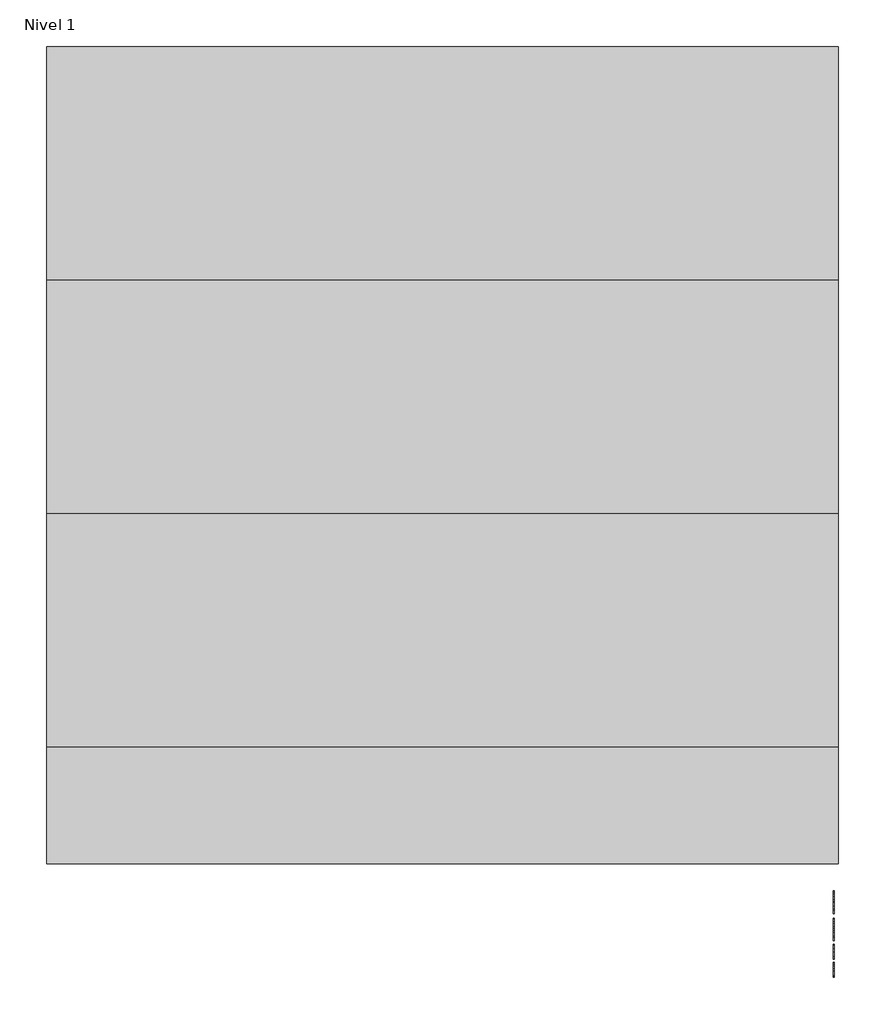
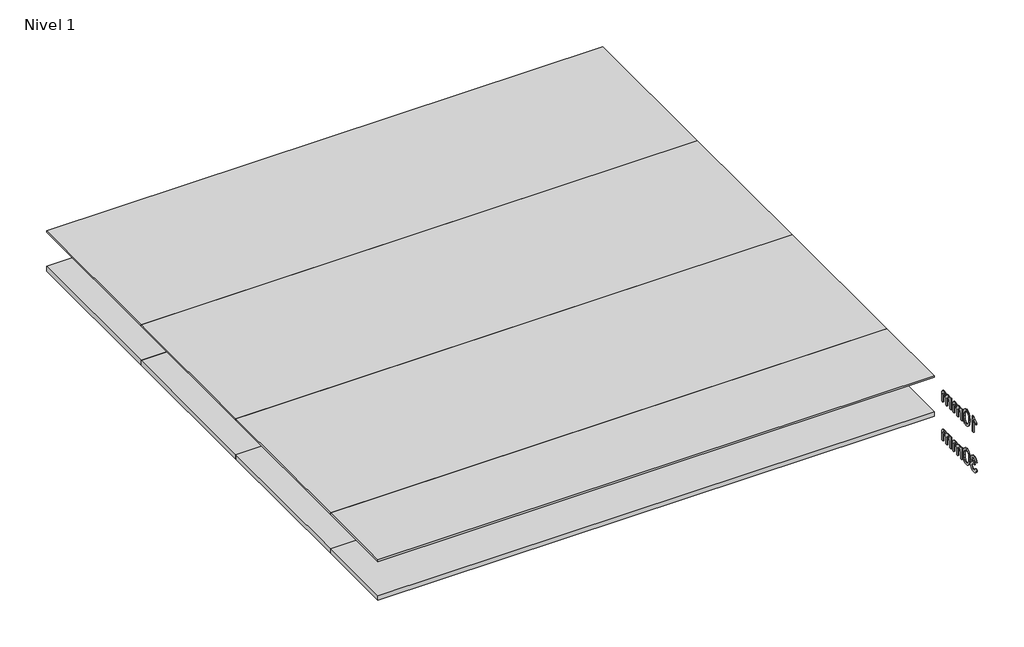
# One storey: 8 plates, 2 proxies.
"""IFC4 building model written with IfcOpenShell, lengths in millimetres."""

from ifc_helpers import new_model, si_unit, frame, origin, place, context, project, spatial, polyline, outline, extrude, transform, mapped, element, save
from components import panel_del_sistema_1ac1ecd3, panel_del_sistema_f5e17b8b, panel_del_sistema_2c4d4257, panel_del_sistema_870ac747

model = new_model("IFC4")

# Units and contexts
model_context = context("Model", 3, world=origin())
ifc_project = project(units=[si_unit("LENGTHUNIT", "METRE", prefix="MILLI")], contexts=[model_context])

# Site, building, storey
site = spatial("IfcSite", under=ifc_project)
building = spatial("IfcBuilding", under=site)
storey = spatial("IfcBuildingStorey", under=building, Name="Nivel 1", Elevation=0.0)

# Proxies
placement = place(None, origin())
element("IfcBuildingElementProxy", 1, Name="100mm Arial", ObjectType="100mm Arial", at=placement, inside=storey, context=model_context, shape_type="SweptSolid", body=[
    extrude(outline(polyline([(14811.6332666, -540.4578656), (14824.1903054, -538.8882358), (14831.1187496, -552.1074622), (14844.0804586, -556.1541641), (14852.6888973, -554.7623439), (14859.3352987, -550.5868832), (14865.0006814, -536.8035712), (14859.3843496, -523.8173367), (14845.1105282, -518.6792515), (14836.3058858, -520.0526776), (14837.7038373, -507.4956389), (14839.7149256, -507.6427917), (14853.9642215, -504.0375481), (14858.7098993, -499.4635487), (14860.2917918, -492.9520373), (14855.7055296, -483.1295881), (14843.8842549, -479.2423016), (14831.9158273, -483.1663763), (14825.7599352, -494.9386001), (14813.2028965, -493.3689703), (14816.9001105, -482.0933871), (14823.4790669, -473.6750208), (14832.479913, -468.4327024), (14843.4427965, -466.6852629), (14858.5872719, -470.1310909), (14869.1822734, -479.54887), (14872.8488306, -492.2162733), (14869.3662144, -503.7922935), (14859.0655185, -512.1064266), (14872.7507287, -520.6903398), (14877.5577201, -537.0243004), (14875.1542244, -549.2625081), (14867.9437373, -559.4896275), (14857.0605616, -566.405809), (14843.6390002, -568.7112029), (14831.4988943, -566.7430342), (14821.6151314, -560.8385282), (14814.7418695, -551.8070252), (14811.6332666, -540.4578656)])), frame((9557.0230098, 0.0, 0.0), z_axis=(1.0, 0.0, 0.0), x_axis=(0.0, 1.0, 0.0)), (0.0, 0.0, 1.0), 5.0),
    extrude(outline(polyline([(14888.5451291, -517.7227583), (14892.2362118, -488.8194963), (14903.1990952, -472.1544419), (14921.5073558, -466.6852629), (14936.1735847, -469.9226244), (14946.3026023, -479.2545644), (14952.1887142, -494.116997), (14954.4695826, -517.7227583), (14950.8152881, -546.5033931), (14939.8891929, -563.2052357), (14931.6578332, -567.3347111), (14921.5073558, -568.7112029), (14908.4598077, -566.3199699), (14898.5515193, -559.146271), (14891.0467266, -542.1562542), (14888.5451291, -517.7227583)]), holes=[polyline([(14901.1021678, -517.6982329), (14902.5736958, -537.4504303), (14906.9882798, -548.8823633), (14913.5611047, -554.3362139), (14921.5073558, -556.1541641), (14929.4536069, -554.3300825), (14936.0264319, -548.8578379), (14940.4410159, -537.4197735), (14941.9125438, -517.6982329), (14940.4900668, -498.3905595), (14936.2226356, -486.8697217), (14929.6620734, -481.1491567), (14921.360203, -479.2423016), (14913.4997911, -480.9222961), (14907.1844835, -485.9622794), (14902.6227467, -498.2004871), (14901.1021678, -517.6982329)])]), frame((9557.0230098, 0.0, 0.0), z_axis=(1.0, 0.0, 0.0), x_axis=(0.0, 1.0, 0.0)), (0.0, 0.0, 1.0), 5.0),
    extrude(outline(polyline([(14968.5962512, -567.141573), (14968.5962512, -493.3689703), (14981.15329, -493.3689703), (14981.15329, -505.5090761), (14989.7862541, -495.5639995), (15002.0735128, -491.7993404), (15014.655077, -495.6375759), (15021.5712585, -506.3919929), (15031.3691823, -495.4475035), (15043.7422801, -491.7993404), (15053.181519, -493.3168536), (15060.1620798, -497.8693933), (15064.4754962, -505.5795868), (15065.9133017, -516.5700614), (15065.9133017, -567.141573), (15053.3562629, -567.141573), (15053.3562629, -521.965664), (15052.1913033, -511.4810272), (15047.972923, -506.3184165), (15040.7992241, -504.3563792), (15028.4506518, -509.3840998), (15024.7626348, -515.9262679), (15023.5332958, -525.4973312), (15023.5332958, -567.141573), (15010.9762571, -567.141573), (15010.9762571, -520.5677124), (15008.0699893, -508.4030811), (14998.5418456, -504.3563792), (14989.2466939, -507.0541805), (14983.0662764, -514.9513806), (14981.15329, -529.9364406), (14981.15329, -567.141573), (14968.5962512, -567.141573)])), frame((9557.0230098, 0.0, 0.0), z_axis=(1.0, 0.0, 0.0), x_axis=(0.0, 1.0, 0.0)), (0.0, 0.0, 1.0), 5.0),
    extrude(outline(polyline([(15084.7488598, -567.141573), (15084.7488598, -493.3689703), (15097.3058986, -493.3689703), (15097.3058986, -505.5090761), (15105.9388628, -495.5639995), (15118.2261214, -491.7993404), (15130.8076856, -495.6375759), (15137.7238671, -506.3919929), (15147.5217909, -495.4475035), (15159.8948887, -491.7993404), (15169.3341276, -493.3168536), (15176.3146884, -497.8693933), (15180.6281048, -505.5795868), (15182.0659103, -516.5700614), (15182.0659103, -567.141573), (15169.5088715, -567.141573), (15169.5088715, -521.965664), (15168.3439119, -511.4810272), (15164.1255317, -506.3184165), (15156.9518327, -504.3563792), (15144.6032604, -509.3840998), (15140.9152434, -515.9262679), (15139.6859044, -525.4973312), (15139.6859044, -567.141573), (15127.1288657, -567.141573), (15127.1288657, -520.5677124), (15124.2225979, -508.4030811), (15114.6944542, -504.3563792), (15105.3993025, -507.0541805), (15099.218885, -514.9513806), (15097.3058986, -529.9364406), (15097.3058986, -567.141573), (15084.7488598, -567.141573)])), frame((9557.0230098, 0.0, 0.0), z_axis=(1.0, 0.0, 0.0), x_axis=(0.0, 1.0, 0.0)), (0.0, 0.0, 1.0), 5.0),
])
element("IfcBuildingElementProxy", 2, Name="100mm Arial", ObjectType="100mm Arial", at=placement, inside=storey, context=model_context, shape_type="SweptSolid", body=[
    extrude(outline(polyline([(14858.722162, -317.141573), (14846.1651232, -317.141573), (14846.1651232, -238.8562845), (14834.270272, -247.3298331), (14821.0510457, -253.6696661), (14821.0510457, -241.7993404), (14839.4574082, -230.051642), (14850.6287581, -216.6852629), (14858.722162, -216.6852629), (14858.722162, -317.141573)])), frame((9557.0230098, 0.0, 0.0), z_axis=(1.0, 0.0, 0.0), x_axis=(0.0, 1.0, 0.0)), (0.0, 0.0, 1.0), 5.0),
    extrude(outline(polyline([(14888.5451291, -267.7227583), (14892.2362118, -238.8194963), (14903.1990952, -222.1544419), (14921.5073558, -216.6852629), (14936.1735847, -219.9226244), (14946.3026023, -229.2545644), (14952.1887142, -244.116997), (14954.4695826, -267.7227583), (14950.8152881, -296.5033931), (14939.8891929, -313.2052357), (14931.6578332, -317.3347111), (14921.5073558, -318.7112029), (14908.4598077, -316.3199699), (14898.5515193, -309.146271), (14891.0467266, -292.1562542), (14888.5451291, -267.7227583)]), holes=[polyline([(14901.1021678, -267.6982329), (14902.5736958, -287.4504303), (14906.9882798, -298.8823633), (14913.5611047, -304.3362139), (14921.5073558, -306.1541641), (14929.4536069, -304.3300825), (14936.0264319, -298.8578379), (14940.4410159, -287.4197735), (14941.9125438, -267.6982329), (14940.4900668, -248.3905595), (14936.2226356, -236.8697217), (14929.6620734, -231.1491567), (14921.360203, -229.2423016), (14913.4997911, -230.9222961), (14907.1844835, -235.9622794), (14902.6227467, -248.2004871), (14901.1021678, -267.6982329)])]), frame((9557.0230098, 0.0, 0.0), z_axis=(1.0, 0.0, 0.0), x_axis=(0.0, 1.0, 0.0)), (0.0, 0.0, 1.0), 5.0),
    extrude(outline(polyline([(14968.5962512, -317.141573), (14968.5962512, -243.3689703), (14981.15329, -243.3689703), (14981.15329, -255.5090761), (14989.7862541, -245.5639995), (15002.0735128, -241.7993404), (15014.655077, -245.6375759), (15021.5712585, -256.3919929), (15031.3691823, -245.4475035), (15043.7422801, -241.7993404), (15053.181519, -243.3168536), (15060.1620798, -247.8693933), (15064.4754962, -255.5795868), (15065.9133017, -266.5700614), (15065.9133017, -317.141573), (15053.3562629, -317.141573), (15053.3562629, -271.965664), (15052.1913033, -261.4810272), (15047.972923, -256.3184165), (15040.7992241, -254.3563792), (15028.4506518, -259.3840998), (15024.7626348, -265.9262679), (15023.5332958, -275.4973312), (15023.5332958, -317.141573), (15010.9762571, -317.141573), (15010.9762571, -270.5677124), (15008.0699893, -258.4030811), (14998.5418456, -254.3563792), (14989.2466939, -257.0541805), (14983.0662764, -264.9513806), (14981.15329, -279.9364406), (14981.15329, -317.141573), (14968.5962512, -317.141573)])), frame((9557.0230098, 0.0, 0.0), z_axis=(1.0, 0.0, 0.0), x_axis=(0.0, 1.0, 0.0)), (0.0, 0.0, 1.0), 5.0),
    extrude(outline(polyline([(15084.7488598, -317.141573), (15084.7488598, -243.3689703), (15097.3058986, -243.3689703), (15097.3058986, -255.5090761), (15105.9388628, -245.5639995), (15118.2261214, -241.7993404), (15130.8076856, -245.6375759), (15137.7238671, -256.3919929), (15147.5217909, -245.4475035), (15159.8948887, -241.7993404), (15169.3341276, -243.3168536), (15176.3146884, -247.8693933), (15180.6281048, -255.5795868), (15182.0659103, -266.5700614), (15182.0659103, -317.141573), (15169.5088715, -317.141573), (15169.5088715, -271.965664), (15168.3439119, -261.4810272), (15164.1255317, -256.3184165), (15156.9518327, -254.3563792), (15144.6032604, -259.3840998), (15140.9152434, -265.9262679), (15139.6859044, -275.4973312), (15139.6859044, -317.141573), (15127.1288657, -317.141573), (15127.1288657, -270.5677124), (15124.2225979, -258.4030811), (15114.6944542, -254.3563792), (15105.3993025, -257.0541805), (15099.218885, -264.9513806), (15097.3058986, -279.9364406), (15097.3058986, -317.141573), (15084.7488598, -317.141573)])), frame((9557.0230098, 0.0, 0.0), z_axis=(1.0, 0.0, 0.0), x_axis=(0.0, 1.0, 0.0)), (0.0, 0.0, 1.0), 5.0),
])

# Plates
panel_del_sistema_shape = panel_del_sistema_1ac1ecd3(model_context)
element("IfcPlate", 3, ObjectType="Panel del sistema : HIANSA PANEL - PANELES DE CUBIERTA SIN TAPAJUNTA - EASY BOARD 5GR - Esp. 30mm", at=placement, inside=storey, context=model_context, shape_type="MappedRepresentation", body=[
    mapped(panel_del_sistema_shape, transform((9579.0356399, 18298.3330794, -529.5962409), x_axis=(0.0, -1.0, 0.0), y_axis=(0.0, 0.0, 1.0), z_axis=(-1.0, 0.0, 0.0))),
])
element("IfcPlate", 4, ObjectType="Panel del sistema : HIANSA PANEL - PANELES DE CUBIERTA SIN TAPAJUNTA - EASY BOARD 5GR - Esp. 30mm", at=placement, inside=storey, context=model_context, shape_type="MappedRepresentation", body=[
    mapped(panel_del_sistema_shape, transform((9579.0356399, 17298.3330793, -529.5962409), x_axis=(0.0, -1.0, 0.0), y_axis=(0.0, 0.0, 1.0), z_axis=(-1.0, 0.0, 0.0))),
])
element("IfcPlate", 5, ObjectType="Panel del sistema : HIANSA PANEL - PANELES DE CUBIERTA SIN TAPAJUNTA - EASY BOARD 5GR - Esp. 30mm", at=placement, inside=storey, context=model_context, shape_type="MappedRepresentation", body=[
    mapped(panel_del_sistema_shape, transform((9579.0356399, 16298.3330793, -529.5962409), x_axis=(0.0, -1.0, 0.0), y_axis=(0.0, 0.0, 1.0), z_axis=(-1.0, 0.0, 0.0))),
])
panel_del_sistema_2_shape = panel_del_sistema_f5e17b8b(model_context)
element("IfcPlate", 6, ObjectType="Panel del sistema : HIANSA PANEL - PANELES DE CUBIERTA SIN TAPAJUNTA - EASY BOARD 5GR - Esp. 30mm", at=placement, inside=storey, context=model_context, shape_type="MappedRepresentation", body=[
    mapped(panel_del_sistema_2_shape, transform((9579.0356399, 15548.3330794, -529.5962409), x_axis=(0.0, -1.0, 0.0), y_axis=(0.0, 0.0, 1.0), z_axis=(-1.0, 0.0, 0.0))),
])
panel_del_sistema_3_shape = panel_del_sistema_2c4d4257(model_context)
element("IfcPlate", 7, ObjectType="Panel del sistema : HIANSA PANEL - PANELES DE CUBIERTA SIN TAPAJUNTA - EASY BOARD 5GR - Esp. 10mm", at=placement, inside=storey, context=model_context, shape_type="MappedRepresentation", body=[
    mapped(panel_del_sistema_3_shape, transform((9579.0356399, 18298.3330794, -279.5962409), x_axis=(0.0, -1.0, 0.0), y_axis=(0.0, 0.0, 1.0), z_axis=(-1.0, 0.0, 0.0))),
])
element("IfcPlate", 8, ObjectType="Panel del sistema : HIANSA PANEL - PANELES DE CUBIERTA SIN TAPAJUNTA - EASY BOARD 5GR - Esp. 10mm", at=placement, inside=storey, context=model_context, shape_type="MappedRepresentation", body=[
    mapped(panel_del_sistema_3_shape, transform((9579.0356399, 17298.3330793, -279.5962409), x_axis=(0.0, -1.0, 0.0), y_axis=(0.0, 0.0, 1.0), z_axis=(-1.0, 0.0, 0.0))),
])
element("IfcPlate", 9, ObjectType="Panel del sistema : HIANSA PANEL - PANELES DE CUBIERTA SIN TAPAJUNTA - EASY BOARD 5GR - Esp. 10mm", at=placement, inside=storey, context=model_context, shape_type="MappedRepresentation", body=[
    mapped(panel_del_sistema_3_shape, transform((9579.0356399, 16298.3330793, -279.5962409), x_axis=(0.0, -1.0, 0.0), y_axis=(0.0, 0.0, 1.0), z_axis=(-1.0, 0.0, 0.0))),
])
panel_del_sistema_4_shape = panel_del_sistema_870ac747(model_context)
element("IfcPlate", 10, ObjectType="Panel del sistema : HIANSA PANEL - PANELES DE CUBIERTA SIN TAPAJUNTA - EASY BOARD 5GR - Esp. 10mm", at=placement, inside=storey, context=model_context, shape_type="MappedRepresentation", body=[
    mapped(panel_del_sistema_4_shape, transform((9579.0356399, 15548.3330794, -279.5962409), x_axis=(0.0, -1.0, 0.0), y_axis=(0.0, 0.0, 1.0), z_axis=(-1.0, 0.0, 0.0))),
])

save(model, "model.ifc")
